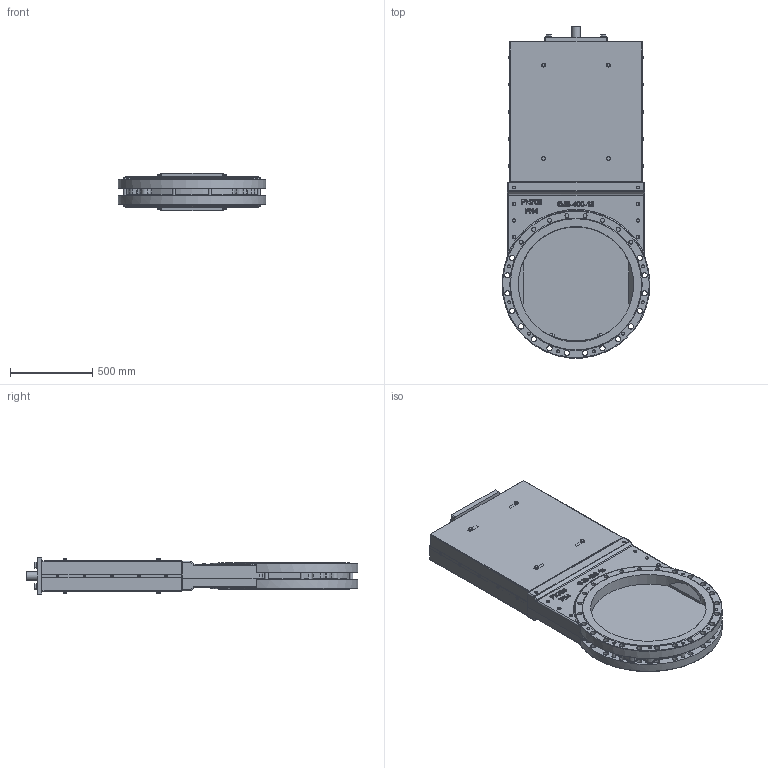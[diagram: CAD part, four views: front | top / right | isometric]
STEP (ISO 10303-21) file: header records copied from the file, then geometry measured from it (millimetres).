
FILE_DESCRIPTION(/* description */ (''),/* implementation_level */ '2;1');
FILE_NAME(/* name */ '明杆刀阀带上法兰 DN700简图修改.stp',/* time_stamp */ '2025-12-22T11:35:27+08:00',/* author */ (''),/* organization */ (''),/* preprocessor_version */ 'ST-DEVELOPER v15',/* originating_system */ 'SIEMENS PLM Software NX 10.0',/* authorisation */ '');
FILE_SCHEMA (('AP203_CONFIGURATION_CONTROLLED_3D_DESIGN_OF_MECHANICAL_PARTS_AND_ASSEMBLIES_MIM_LF { 1 0 10303 403 2 1 2}'));
Products named in the file (1): 4D14B8F2lu4u
Bounding box: 896.94 x 2014.06 x 230 mm (x, y, z)
Volume: 92453786 mm3; surface area: 7978965.1 mm2
Topology: 1 solids, 51 shells, 2629 faces, 6316 edges, 4123 vertices
Faces by surface type: plane 1346, cylinder 574, cone 357, bspline 302, torus 40, sphere 8, extrusion 2
Full cylindrical faces by diameter (mm): 7.323 x10, 8 x20, 8.4 x10, 9 x10, 10.2 x8, 11.053 x8, 11.4 x10, 12 x8, 13 x8, 13.5 x2, 14 x28, 16 x50, 17 x20, 17.2 x8, 17.5 x10, 18 x28, 19.053 x4, 20 x26, 21 x8, 22 x20, 24 x24, 27 x4, 29.63 x16, 30 x20, 32 x28, 33 x16, 37 x4, 40 x4, 50 x1, 60 x1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
Entity records: 90783 total; most frequent: CARTESIAN_POINT 26451, ORIENTED_EDGE 10510, DIRECTION 10133, EDGE_CURVE 5255, AXIS2_PLACEMENT_3D 4007, EDGE_LOOP 3867, VERTEX_POINT 3758, ADVANCED_FACE 2629
